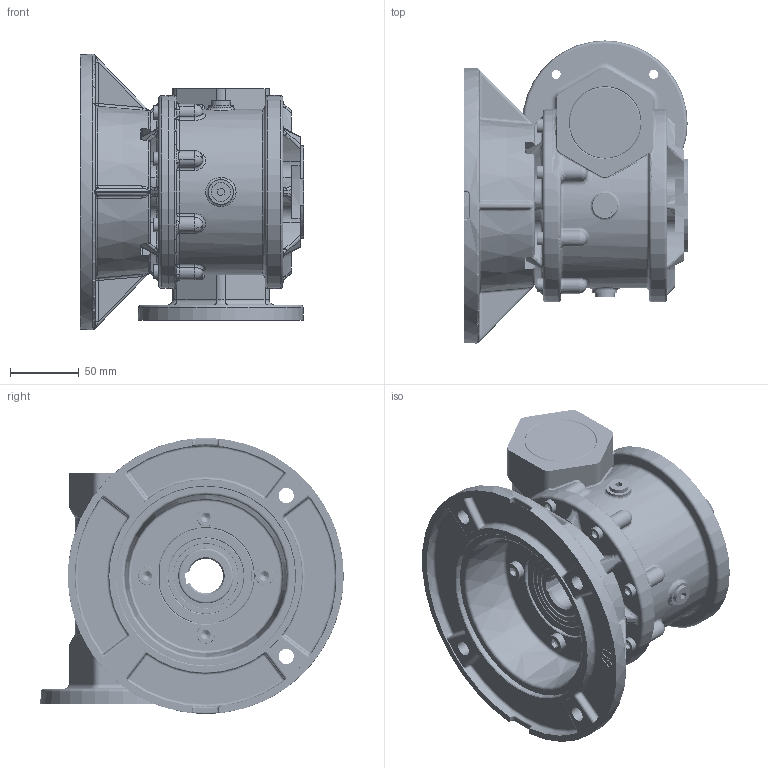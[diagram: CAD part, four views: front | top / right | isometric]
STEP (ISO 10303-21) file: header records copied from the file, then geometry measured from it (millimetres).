
FILE_DESCRIPTION (( 'STEP AP203' ), '1' );
FILE_NAME ('Sestava MRT60A-FF.STEP', '2005-08-15T10:34:53', ( '' ), ( '' ), 'SwSTEP 2.0', 'SolidWorks 2004146', '' );
FILE_SCHEMA (( 'CONFIG_CONTROL_DESIGN' ));
Products named in the file (1): Sestava MRT60A-FF
Bounding box: 162.1 x 220 x 200 mm (x, y, z)
Volume: 1418225.5 mm3; surface area: 486313.6 mm2
Topology: 35 solids, 37 shells, 3633 faces, 8931 edges, 5095 vertices
Faces by surface type: torus 872, cylinder 864, plane 680, cone 604, bspline 459, sphere 154
Entity records: 345719 total; most frequent: CARTESIAN_POINT 264405, DIRECTION 17468, ORIENTED_EDGE 17074, EDGE_CURVE 8537, AXIS2_PLACEMENT_3D 7738, VERTEX_POINT 4983, CIRCLE 4563, EDGE_LOOP 3870
